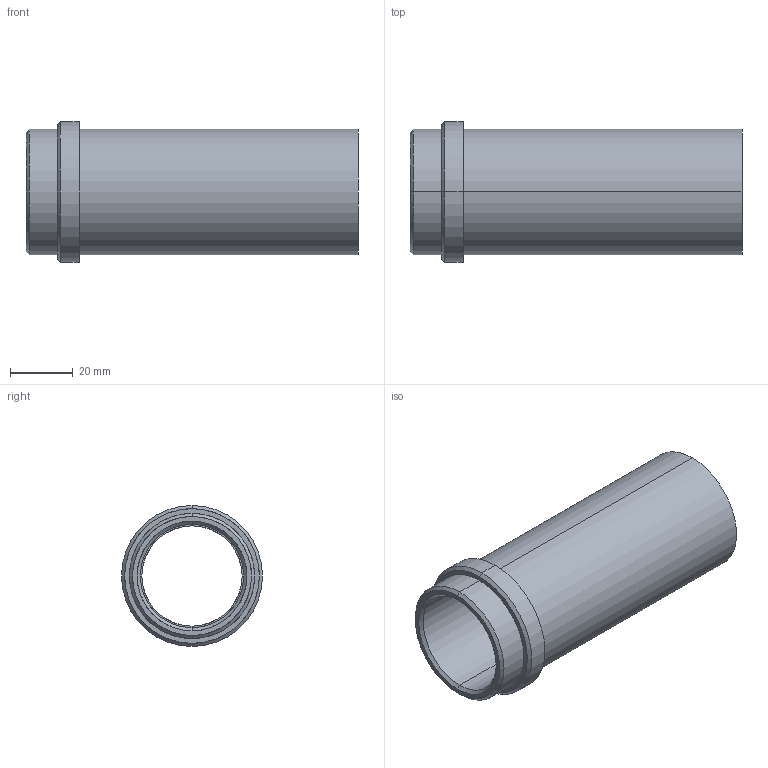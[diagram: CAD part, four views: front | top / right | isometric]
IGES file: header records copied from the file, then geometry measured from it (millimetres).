
Start section: START RECORD GO HERE.
Global section: file name: 358-32x106.igs; native system: DASSAULT SYSTEMES CATIA V5 R20 - www.3ds.com; preprocessor: CATIA Version 5 Release 20 ; author: Utente; organization: NB04-ASUS; date: 20210409.151324; units: millimetre
Bounding box: 106 x 45 x 45 mm (x, y, z)
Surface area: 25487.9 mm2 (no closed solid volume)
Topology: 0 solids, 0 shells, 23 faces, 148 edges, 148 vertices
Faces by surface type: revolution 18, plane 5
